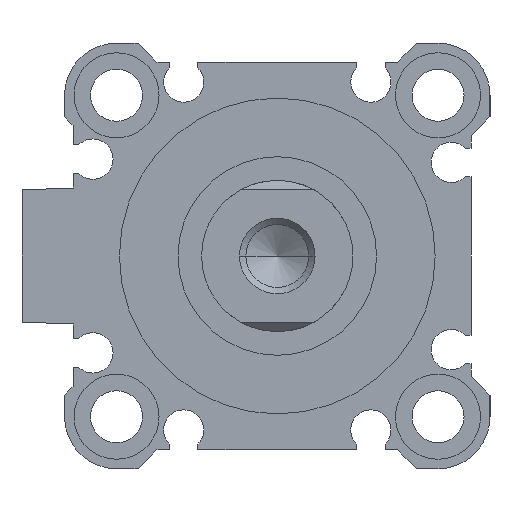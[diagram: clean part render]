
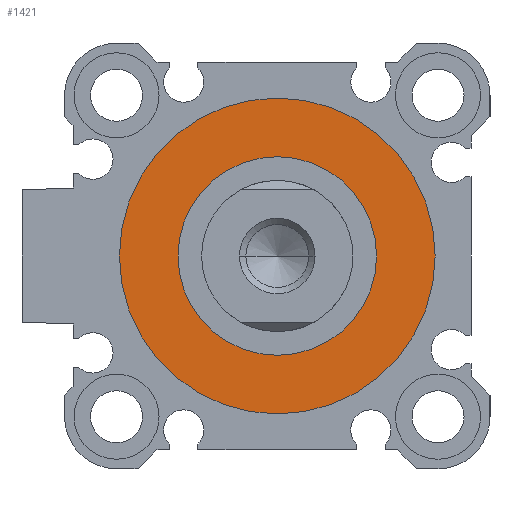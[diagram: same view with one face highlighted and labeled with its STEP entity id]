
A CAD part, left-side view. The second image highlights one B-rep face of the part: STEP entity #1421.
In plain terms, the highlighted planar face has unit normal (-1, 0, 0).
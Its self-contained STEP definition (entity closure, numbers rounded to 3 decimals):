
#120 = CARTESIAN_POINT ( 'NONE',  ( 2.1, 0., 0. ) ) ;
#354 = EDGE_LOOP ( 'NONE', ( #4192, #3646 ) ) ;
#388 = ORIENTED_EDGE ( 'NONE', *, *, #3493, .F. ) ;
#399 = AXIS2_PLACEMENT_3D ( 'NONE', #3739, #1312, #3713 ) ;
#586 = AXIS2_PLACEMENT_3D ( 'NONE', #1073, #4131, #1403 ) ;
#872 = CIRCLE ( 'NONE', #399, 16.7 ) ;
#1073 = CARTESIAN_POINT ( 'NONE',  ( 2.1, 0., 0. ) ) ;
#1312 = DIRECTION ( 'NONE',  ( 1., 0., 0. ) ) ;
#1403 = DIRECTION ( 'NONE',  ( 0., 0., -1. ) ) ;
#1421 = ADVANCED_FACE ( 'NONE', ( #4823, #3991 ), #4064, .F. ) ;
#1577 = EDGE_LOOP ( 'NONE', ( #388, #2761 ) ) ;
#1666 = DIRECTION ( 'NONE',  ( 1., 0., 0. ) ) ;
#1833 = CARTESIAN_POINT ( 'NONE',  ( 2.1, 0., -10.5 ) ) ;
#1927 = CARTESIAN_POINT ( 'NONE',  ( 2.1, 0., 10.5 ) ) ;
#1973 = CIRCLE ( 'NONE', #586, 10.5 ) ;
#2250 = VERTEX_POINT ( 'NONE', #1927 ) ;
#2375 = EDGE_CURVE ( 'NONE', #3364, #2250, #4753, .T. ) ;
#2390 = DIRECTION ( 'NONE',  ( 1., 0., 0. ) ) ;
#2550 = AXIS2_PLACEMENT_3D ( 'NONE', #4682, #2748, #2793 ) ;
#2623 = AXIS2_PLACEMENT_3D ( 'NONE', #3955, #2390, #4716 ) ;
#2657 = VERTEX_POINT ( 'NONE', #3761 ) ;
#2748 = DIRECTION ( 'NONE',  ( 1., 0., 0. ) ) ;
#2761 = ORIENTED_EDGE ( 'NONE', *, *, #4747, .F. ) ;
#2793 = DIRECTION ( 'NONE',  ( 0., 0., -1. ) ) ;
#2862 = CIRCLE ( 'NONE', #2623, 16.7 ) ;
#3218 = DIRECTION ( 'NONE',  ( 0., 1., 0. ) ) ;
#3364 = VERTEX_POINT ( 'NONE', #1833 ) ;
#3444 = EDGE_CURVE ( 'NONE', #2250, #3364, #1973, .T. ) ;
#3493 = EDGE_CURVE ( 'NONE', #2657, #4191, #2862, .T. ) ;
#3646 = ORIENTED_EDGE ( 'NONE', *, *, #2375, .T. ) ;
#3713 = DIRECTION ( 'NONE',  ( 0., 0., -1. ) ) ;
#3739 = CARTESIAN_POINT ( 'NONE',  ( 2.1, 0., 0. ) ) ;
#3761 = CARTESIAN_POINT ( 'NONE',  ( 2.1, 0., 16.7 ) ) ;
#3843 = CARTESIAN_POINT ( 'NONE',  ( 2.1, 0., -16.7 ) ) ;
#3955 = CARTESIAN_POINT ( 'NONE',  ( 2.1, 0., 0. ) ) ;
#3991 = FACE_BOUND ( 'NONE', #354, .T. ) ;
#4064 = PLANE ( 'NONE',  #4822 ) ;
#4131 = DIRECTION ( 'NONE',  ( 1., 0., 0. ) ) ;
#4191 = VERTEX_POINT ( 'NONE', #3843 ) ;
#4192 = ORIENTED_EDGE ( 'NONE', *, *, #3444, .T. ) ;
#4682 = CARTESIAN_POINT ( 'NONE',  ( 2.1, 0., 0. ) ) ;
#4716 = DIRECTION ( 'NONE',  ( 0., 0., -1. ) ) ;
#4747 = EDGE_CURVE ( 'NONE', #4191, #2657, #872, .T. ) ;
#4753 = CIRCLE ( 'NONE', #2550, 10.5 ) ;
#4822 = AXIS2_PLACEMENT_3D ( 'NONE', #120, #1666, #3218 ) ;
#4823 = FACE_OUTER_BOUND ( 'NONE', #1577, .T. ) ;
